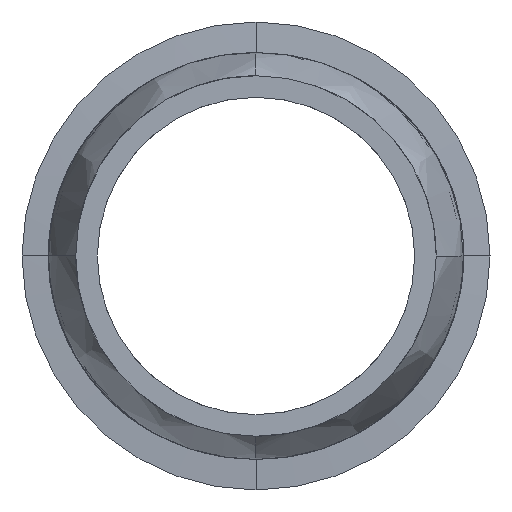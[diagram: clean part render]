
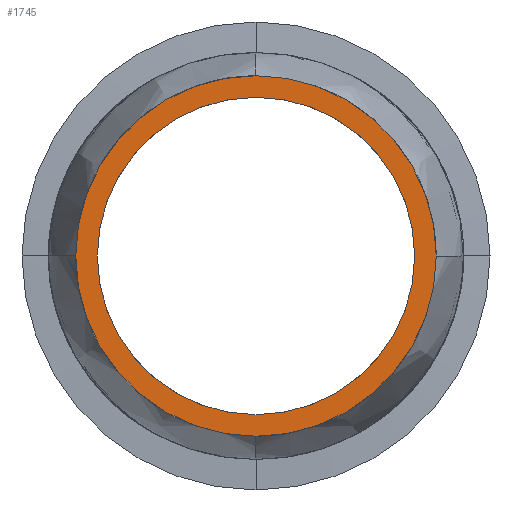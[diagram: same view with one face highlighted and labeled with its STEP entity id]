
A CAD part, left-side view. The second image highlights one B-rep face of the part: STEP entity #1745.
In plain terms, the highlighted planar face has unit normal (-1, 0, 0).
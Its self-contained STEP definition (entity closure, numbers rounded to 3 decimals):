
#17=FACE_BOUND('',#231,.T.);
#19=PLANE('',#1862);
#118=FACE_OUTER_BOUND('',#230,.T.);
#230=EDGE_LOOP('',(#1205,#1206,#1207,#1208));
#231=EDGE_LOOP('',(#1209,#1210,#1211,#1212));
#563=CIRCLE('',#1851,25.075);
#568=CIRCLE('',#1859,25.075);
#569=CIRCLE('',#1861,25.075);
#570=CIRCLE('',#1863,25.075);
#571=CIRCLE('',#1864,22.075);
#572=CIRCLE('',#1865,22.075);
#573=CIRCLE('',#1866,22.075);
#574=CIRCLE('',#1867,22.075);
#689=VERTEX_POINT('',#4097);
#690=VERTEX_POINT('',#4099);
#695=VERTEX_POINT('',#4280);
#696=VERTEX_POINT('',#4284);
#697=VERTEX_POINT('',#4289);
#698=VERTEX_POINT('',#4290);
#699=VERTEX_POINT('',#4292);
#700=VERTEX_POINT('',#4294);
#862=EDGE_CURVE('',#689,#690,#563,.T.);
#873=EDGE_CURVE('',#690,#695,#568,.T.);
#875=EDGE_CURVE('',#696,#689,#569,.T.);
#876=EDGE_CURVE('',#695,#696,#570,.T.);
#877=EDGE_CURVE('',#697,#698,#571,.T.);
#878=EDGE_CURVE('',#699,#697,#572,.T.);
#879=EDGE_CURVE('',#700,#699,#573,.T.);
#880=EDGE_CURVE('',#698,#700,#574,.T.);
#1205=ORIENTED_EDGE('',*,*,#876,.T.);
#1206=ORIENTED_EDGE('',*,*,#875,.T.);
#1207=ORIENTED_EDGE('',*,*,#862,.T.);
#1208=ORIENTED_EDGE('',*,*,#873,.T.);
#1209=ORIENTED_EDGE('',*,*,#877,.F.);
#1210=ORIENTED_EDGE('',*,*,#878,.F.);
#1211=ORIENTED_EDGE('',*,*,#879,.F.);
#1212=ORIENTED_EDGE('',*,*,#880,.F.);
#1745=ADVANCED_FACE('',(#118,#17),#19,.T.);
#1851=AXIS2_PLACEMENT_3D('',#4101,#2052,#2053);
#1859=AXIS2_PLACEMENT_3D('',#4282,#2072,#2073);
#1861=AXIS2_PLACEMENT_3D('',#4286,#2077,#2078);
#1862=AXIS2_PLACEMENT_3D('',#4287,#2079,#2080);
#1863=AXIS2_PLACEMENT_3D('',#4288,#2081,#2082);
#1864=AXIS2_PLACEMENT_3D('',#4291,#2083,#2084);
#1865=AXIS2_PLACEMENT_3D('',#4293,#2085,#2086);
#1866=AXIS2_PLACEMENT_3D('',#4295,#2087,#2088);
#1867=AXIS2_PLACEMENT_3D('',#4296,#2089,#2090);
#2052=DIRECTION('center_axis',(-1.,0.,0.));
#2053=DIRECTION('ref_axis',(0.,1.,0.));
#2072=DIRECTION('center_axis',(-1.,0.,0.));
#2073=DIRECTION('ref_axis',(0.,0.,
-1.));
#2077=DIRECTION('center_axis',(-1.,0.,0.));
#2078=DIRECTION('ref_axis',(0.,0.,
1.));
#2079=DIRECTION('center_axis',(-1.,0.,0.));
#2080=DIRECTION('ref_axis',(0.,-1.,0.));
#2081=DIRECTION('center_axis',(-1.,0.,0.));
#2082=DIRECTION('ref_axis',(0.,-1.,0.));
#2083=DIRECTION('center_axis',(-1.,0.,0.));
#2084=DIRECTION('ref_axis',(0.,0.,
1.));
#2085=DIRECTION('center_axis',(-1.,0.,0.));
#2086=DIRECTION('ref_axis',(0.,-1.,0.));
#2087=DIRECTION('center_axis',(-1.,0.,0.));
#2088=DIRECTION('ref_axis',(0.,0.,
-1.));
#2089=DIRECTION('center_axis',(-1.,0.,0.));
#2090=DIRECTION('ref_axis',(0.,1.,0.));
#4097=CARTESIAN_POINT('',(-550.8,25.075,0.));
#4099=CARTESIAN_POINT('',(-550.8,0.,-25.075));
#4101=CARTESIAN_POINT('Origin',(-550.8,0.,0.));
#4280=CARTESIAN_POINT('',(-550.8,-25.075,0.));
#4282=CARTESIAN_POINT('Origin',(-550.8,0.,0.));
#4284=CARTESIAN_POINT('',(-550.8,0.,25.075));
#4286=CARTESIAN_POINT('Origin',(-550.8,0.,0.));
#4287=CARTESIAN_POINT('Origin',(-550.8,25.075,-25.075));
#4288=CARTESIAN_POINT('Origin',(-550.8,0.,0.));
#4289=CARTESIAN_POINT('',(-550.8,0.,22.075));
#4290=CARTESIAN_POINT('',(-550.8,22.075,0.));
#4291=CARTESIAN_POINT('Origin',(-550.8,0.,0.));
#4292=CARTESIAN_POINT('',(-550.8,-22.075,0.));
#4293=CARTESIAN_POINT('Origin',(-550.8,0.,0.));
#4294=CARTESIAN_POINT('',(-550.8,0.,-22.075));
#4295=CARTESIAN_POINT('Origin',(-550.8,0.,0.));
#4296=CARTESIAN_POINT('Origin',(-550.8,0.,0.));
